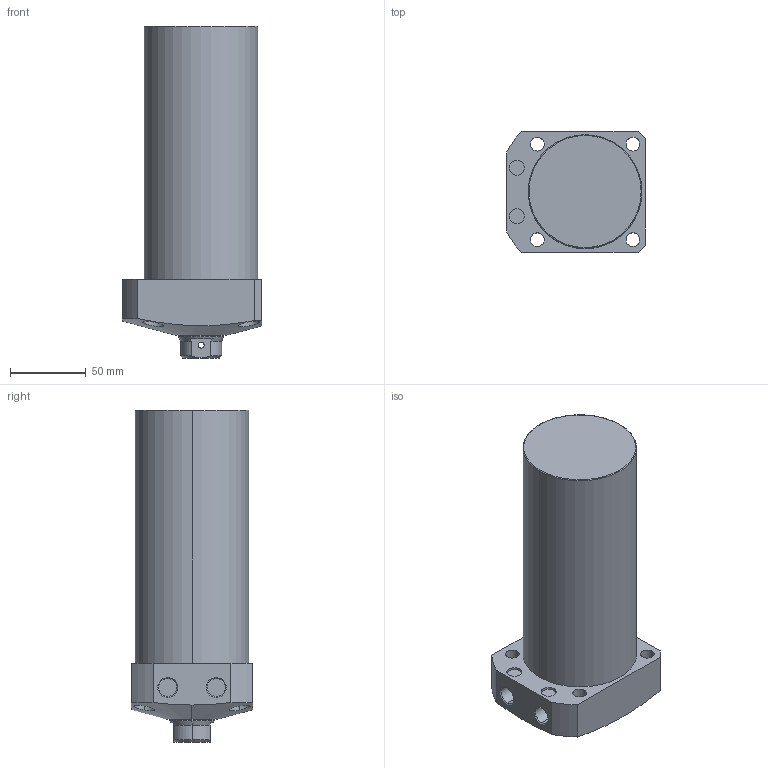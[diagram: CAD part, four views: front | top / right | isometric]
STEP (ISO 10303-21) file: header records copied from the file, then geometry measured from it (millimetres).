
FILE_DESCRIPTION (( 'STEP AP203' ), '1' );
FILE_NAME ('CLL-075CB-130.STEP', '2019-12-24T00:21:10', ( '' ), ( '' ), 'SwSTEP 2.0', 'SolidWorks 2015', '' );
FILE_SCHEMA (( 'CONFIG_CONTROL_DESIGN' ));
Length unit declared in the file: millimetre
Products named in the file (1): CLL-075CB-130
Bounding box: 92 x 80 x 219 mm (x, y, z)
Volume: 956713.9 mm3; surface area: 71761.6 mm2
Topology: 1 solids, 1 shells, 78 faces, 183 edges, 116 vertices
Faces by surface type: cylinder 39, plane 22, cone 15, torus 2
Entity records: 2862 total; most frequent: CARTESIAN_POINT 955, DIRECTION 396, ORIENTED_EDGE 362, EDGE_CURVE 181, AXIS2_PLACEMENT_3D 164, VERTEX_POINT 116, EDGE_LOOP 101, CIRCLE 85
